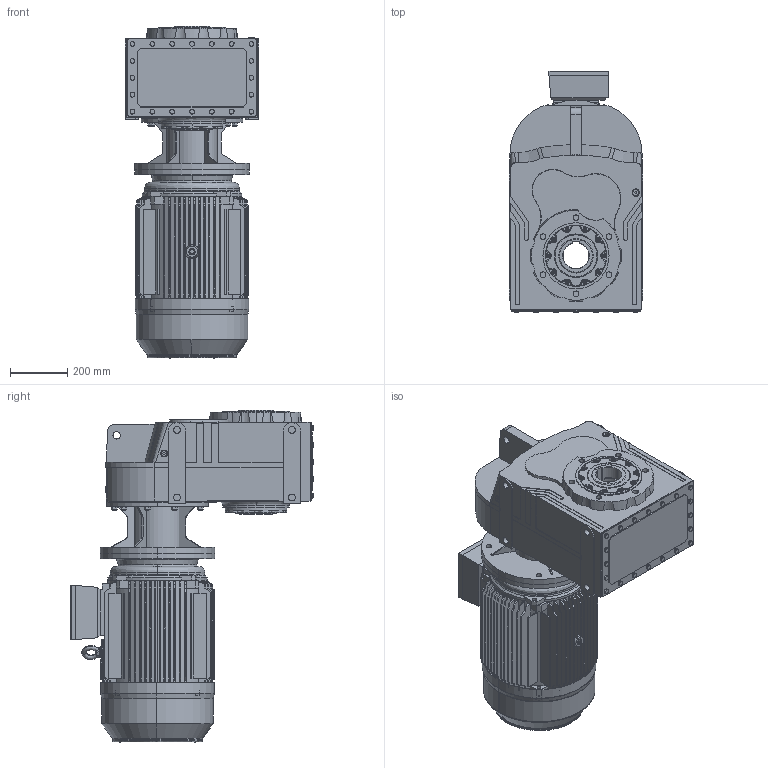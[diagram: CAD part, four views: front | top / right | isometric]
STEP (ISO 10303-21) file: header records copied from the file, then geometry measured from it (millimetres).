
FILE_DESCRIPTION (( 'STEP AP203' ), '1' );
FILE_NAME ('DV772-DV773-M3-200L.STEP', '2019-07-23T09:00:05', ( '' ), ( '' ), 'SwSTEP 2.0', 'SolidWorks 2012', '' );
FILE_SCHEMA (( 'CONFIG_CONTROL_DESIGN' ));
Products named in the file (15): 200-4B5; Plain parallel keys_GB_CONNECTING_PIECE_KEYS_CSK 16X100; DV772-DV773-M3-200L; ﾍﾟYE3-200L-4.6.8C+ﾎA+ｳ_-ｼ+､; Y2-200-2.4.6.8ｦｾﾂ-ｩﾃ_-ｼ+､; Y2-200-4.6.8Ã¦Íß¦ð-Ô©Ã_-¼+¤; Y2-200-4.6.8¦¾Íß¦ð-Ô©Ã_-¼+¤; Y2-200+ｷﾎｨB5_-ｼ+､; MN2-200ﾀiﾍ_-ｼ+､; Eyebolts GB_GB_FASTENER_SCREWS_FRS M16-N; ML22A_Varsayìlan; DN_77_3_0_A-B20_B5_ML22A_0_0_0_0_0_0_0_0_0_0_0_0_M1; 63200B5_Varsayìlan; Y2-200-4.6.8-ｦﾈﾁﾂ-ｩﾃ_-ｼ+､; D773_Varsayìlan
Assembly tree (14 placements, depth 3):
  DV772-DV773-M3-200L
    DN_77_3_0_A-B20_B5_ML22A_0_0_0_0_0_0_0_0_0_0_0_0_M1
      D773_Varsayìlan
      63200B5_Varsayìlan
      ML22A_Varsayìlan
    200-4B5
      Y2-200-4.6.8-ｦﾈﾁﾂ-ｩﾃ_-ｼ+､
      MN2-200ﾀiﾍ_-ｼ+､
      Eyebolts GB_GB_FASTENER_SCREWS_FRS M16-N
      Y2-200+ｷﾎｨB5_-ｼ+､
      Y2-200-4.6.8Ã¦Íß¦ð-Ô©Ã_-¼+¤
      ﾍﾟYE3-200L-4.6.8C+ﾎA+ｳ_-ｼ+､
      Y2-200-2.4.6.8ｦｾﾂ-ｩﾃ_-ｼ+､
      Y2-200-4.6.8¦¾Íß¦ð-Ô©Ã_-¼+¤
      Plain parallel keys_GB_CONNECTING_PIECE_KEYS_CSK 16X100
Bounding box: 464 x 842.41 x 1155.7 mm (x, y, z)
Volume: 104729487.6 mm3; surface area: 6363196.6 mm2
Topology: 14 solids, 14 shells, 3134 faces, 7950 edges, 4933 vertices
Faces by surface type: plane 1266, cylinder 885, cone 659, bspline 320, torus 4
Entity records: 112571 total; most frequent: CARTESIAN_POINT 37852, ORIENTED_EDGE 15660, DIRECTION 14987, EDGE_CURVE 7830, AXIS2_PLACEMENT_3D 5762, VERTEX_POINT 4913, LINE 3463, VECTOR 3463
